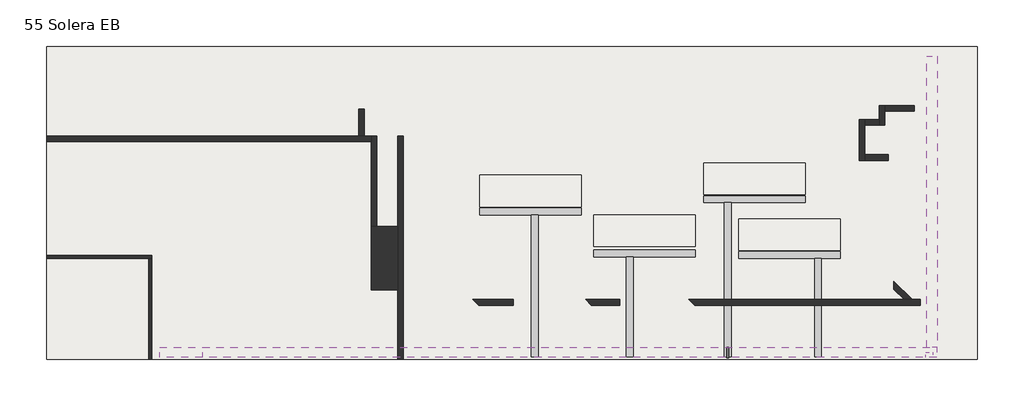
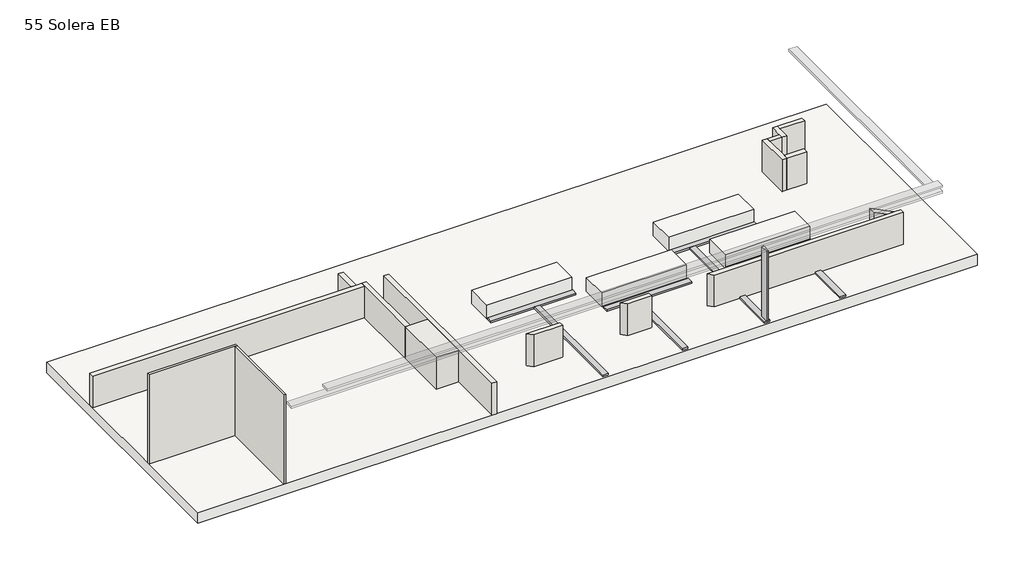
# One storey: 16 walls, 13 cable carrier segments, 5 slabs.
"""IFC4 building model written with IfcOpenShell, lengths in millimetres."""

from ifc_helpers import new_model, si_unit, frame, origin, place, context, project, spatial, polyline, outline, extrude, faceted_brep, element, save

model = new_model("IFC4")

# Units and contexts
model_context = context("Model", 3, world=origin())
ifc_project = project(units=[si_unit("LENGTHUNIT", "METRE", prefix="MILLI")], contexts=[model_context])

# Site, building, storey
site = spatial("IfcSite", under=ifc_project)
building = spatial("IfcBuilding", under=site)
storey = spatial("IfcBuildingStorey", under=building, Name="55 Solera EB", Elevation=-6800.0)

# Cable carrier segments
placement = place(None, origin())
element("IfcCableCarrierSegment", 1, ObjectType="Bandeja de cables de canal", at=placement, inside=storey, context=model_context, shape_type="SweptSolid", body=[
    extrude(outline(polyline([(-13595.4068586, 1343.4120119), (-13595.4068586, 1793.4120119), (20884.5931414, 1793.4120119), (20884.5931414, 1343.4120119), (-13595.4068586, 1343.4120119)])), frame((0.0, 0.0, -2781.7777346), z_axis=(0.0, 0.0, 1.0), x_axis=(1.0, 0.0, 0.0)), (0.0, 0.0, 1.0), 100.0),
])
element("IfcCableCarrierSegment", 2, ObjectType="Bandeja de cables de canal", at=placement, inside=storey, context=model_context, shape_type="SweptSolid", body=[
    extrude(outline(polyline([(-11695.4068586, 1343.4120119), (-11695.4068586, 1793.4120119), (20884.5931414, 1793.4120119), (20884.5931414, 1343.4120119), (-11695.4068586, 1343.4120119)])), frame((0.0, 0.0, -2461.7777346), z_axis=(0.0, 0.0, 1.0), x_axis=(1.0, 0.0, 0.0)), (0.0, 0.0, 1.0), 100.0),
])
element("IfcCableCarrierSegment", 3, ObjectType="Bandeja de cables de canal", at=placement, inside=storey, context=model_context, shape_type="SweptSolid", body=[
    extrude(outline(polyline([(20439.485393, 1793.4120119), (20439.485393, 14722.598714), (20889.485393, 14722.598714), (20889.485393, 1793.4120119), (20439.485393, 1793.4120119)])), frame((0.0, 0.0, -2786.8), z_axis=(0.0, 0.0, 1.0), x_axis=(1.0, 0.0, 0.0)), (0.0, 0.0, 1.0), 100.0),
])
element("IfcCableCarrierSegment", 4, ObjectType="Bandeja de cables de canal", at=placement, inside=storey, context=model_context, shape_type="SweptSolid", body=[
    extrude(outline(polyline([(10164.6588804, 6117.8029415), (10164.6588804, 5817.8029415), (5664.6588804, 5817.8029415), (5664.6588804, 6117.8029415), (10164.6588804, 6117.8029415)])), frame((0.0, 0.0, -6800.0), z_axis=(0.0, 0.0, 1.0), x_axis=(1.0, 0.0, 0.0)), (0.0, 0.0, 1.0), 100.0),
])
element("IfcCableCarrierSegment", 5, ObjectType="Bandeja de cables de canal", at=placement, inside=storey, context=model_context, shape_type="SweptSolid", body=[
    extrude(outline(polyline([(20694.4885605, 1363.4706059), (20394.4885605, 1363.4706059), (20394.4885605, 1568.4120119), (20694.4885605, 1568.4120119), (20694.4885605, 1363.4706059)])), frame((0.0, 0.0, -2786.8), z_axis=(0.0, 0.0, 1.0), x_axis=(1.0, 0.0, 0.0)), (0.0, 0.0, 1.0), 100.0),
])
element("IfcCableCarrierSegment", 6, ObjectType="Bandeja de cables de canal", at=placement, inside=storey, context=model_context, shape_type="SweptSolid", body=[
    extrude(outline(polyline([(12096.4155765, 5757.8029415), (12096.4155765, 6057.8029415), (16596.4155765, 6057.8029415), (16596.4155765, 5757.8029415), (12096.4155765, 5757.8029415)])), frame((0.0, 0.0, -6800.0), z_axis=(0.0, 0.0, 1.0), x_axis=(1.0, 0.0, 0.0)), (0.0, 0.0, 1.0), 100.0),
])
element("IfcCableCarrierSegment", 7, ObjectType="Bandeja de cables de canal", at=placement, inside=storey, context=model_context, shape_type="SweptSolid", body=[
    extrude(outline(polyline([(10535.5293551, 8222.9492922), (10535.5293551, 8522.9492922), (15035.5293551, 8522.9492922), (15035.5293551, 8222.9492922), (10535.5293551, 8222.9492922)])), frame((0.0, 0.0, -6800.0), z_axis=(0.0, 0.0, 1.0), x_axis=(1.0, 0.0, 0.0)), (0.0, 0.0, 1.0), 100.0),
])
element("IfcCableCarrierSegment", 8, ObjectType="Bandeja de cables de canal", at=placement, inside=storey, context=model_context, shape_type="SweptSolid", body=[
    extrude(outline(polyline([(600.9527436, 7682.5946862), (600.9527436, 7982.5946862), (5100.9527436, 7982.5946862), (5100.9527436, 7682.5946862), (600.9527436, 7682.5946862)])), frame((0.0, 0.0, -6800.0), z_axis=(0.0, 0.0, 1.0), x_axis=(1.0, 0.0, 0.0)), (0.0, 0.0, 1.0), 100.0),
])
element("IfcCableCarrierSegment", 9, ObjectType="Bandeja de cables de canal", at=placement, inside=storey, context=model_context, shape_type="SweptSolid", body=[
    extrude(outline(polyline([(3188.1043539, 7682.5946862), (3188.1043539, 1382.5946862), (2888.1043539, 1382.5946862), (2888.1043539, 7682.5946862), (3188.1043539, 7682.5946862)])), frame((0.0, 0.0, -6800.0), z_axis=(0.0, 0.0, 1.0), x_axis=(1.0, 0.0, 0.0)), (0.0, 0.0, 1.0), 100.0),
])
element("IfcCableCarrierSegment", 10, ObjectType="Bandeja de cables de canal", at=placement, inside=storey, context=model_context, shape_type="SweptSolid", body=[
    extrude(outline(polyline([(7400.1652336, 5817.8029415), (7400.1652336, 1382.5946862), (7100.1652336, 1382.5946862), (7100.1652336, 5817.8029415), (7400.1652336, 5817.8029415)])), frame((0.0, 0.0, -6800.0), z_axis=(0.0, 0.0, 1.0), x_axis=(1.0, 0.0, 0.0)), (0.0, 0.0, 1.0), 100.0),
])
element("IfcCableCarrierSegment", 11, ObjectType="Bandeja de cables de canal", at=placement, inside=storey, context=model_context, shape_type="SweptSolid", body=[
    extrude(outline(polyline([(15755.9833031, 5757.8029415), (15755.9833031, 1382.5946862), (15455.9833031, 1382.5946862), (15455.9833031, 5757.8029415), (15755.9833031, 5757.8029415)])), frame((0.0, 0.0, -6800.0), z_axis=(0.0, 0.0, 1.0), x_axis=(1.0, 0.0, 0.0)), (0.0, 0.0, 1.0), 100.0),
])
element("IfcCableCarrierSegment", 12, ObjectType="Bandeja de cables de canal", at=placement, inside=storey, context=model_context, shape_type="SweptSolid", body=[
    extrude(outline(polyline([(11748.8334932, 8222.9492922), (11748.8334932, 1382.5946862), (11448.8334932, 1382.5946862), (11448.8334932, 8222.9492922), (11748.8334932, 8222.9492922)])), frame((0.0, 0.0, -6800.0), z_axis=(0.0, 0.0, 1.0), x_axis=(1.0, 0.0, 0.0)), (0.0, 0.0, 1.0), 100.0),
])
element("IfcCableCarrierSegment", 13, ObjectType="Bandeja de cables de canal", at=placement, inside=storey, context=model_context, shape_type="Brep", body=[
    faceted_brep([(11647.214179, 1343.0546627, -6700.0), (11648.5307193, 1343.0546627, -2781.7777346), (11548.5333533, 1343.7812393, -2781.7777346), (11547.2168129, 1343.7812393, -6700.0), (11551.8029483, 1793.7693611, -2781.7777346), (11550.4864079, 1793.7693611, -6700.0), (11651.8003143, 1793.0427845, -2781.7777346), (11650.4837739, 1793.0427845, -6700.0)], [[[0, 1, 2, 3]], [[3, 2, 4, 5]], [[5, 4, 6, 7]], [[7, 6, 1, 0]], [[0, 3, 5, 7]], [[1, 6, 4, 2]]]),
])

# Slabs
element("IfcSlab", 14, ObjectType="Hormigón in situ 600mm", at=placement, inside=storey, context=model_context, shape_type="SweptSolid", body=[
    extrude(outline(polyline([(22679.8913947, 15161.9564867), (22679.8913947, 1273.4120119), (-18618.7193999, 1273.4120119), (-18618.7193999, 15161.9564867), (22679.8913947, 15161.9564867)])), frame((0.0, 0.0, -7400.0), z_axis=(0.0, 0.0, 1.0), x_axis=(1.0, 0.0, 0.0)), (0.0, 0.0, 1.0), 600.0),
])
element("IfcSlab", 15, ObjectType="Genérico 770 mm", at=placement, inside=storey, context=model_context, shape_type="SweptSolid", body=[
    extrude(outline(polyline([(5658.7740434, 7685.2316774), (10158.7740434, 7685.2316774), (10158.7740434, 6285.2316774), (5658.7740434, 6285.2316774), (5658.7740434, 7685.2316774)])), frame((0.0, 0.0, -6800.0), z_axis=(0.0, 0.0, 1.0), x_axis=(1.0, 0.0, 0.0)), (0.0, 0.0, 1.0), 770.0),
])
element("IfcSlab", 16, ObjectType="Genérico 770 mm", at=placement, inside=storey, context=model_context, shape_type="SweptSolid", body=[
    extrude(outline(polyline([(10535.5293551, 9982.9492922), (15035.5293551, 9982.9492922), (15035.5293551, 8582.9492922), (10535.5293551, 8582.9492922), (10535.5293551, 9982.9492922)])), frame((0.0, 0.0, -6800.0), z_axis=(0.0, 0.0, 1.0), x_axis=(1.0, 0.0, 0.0)), (0.0, 0.0, 1.0), 770.0),
])
element("IfcSlab", 17, ObjectType="Genérico 770 mm", at=placement, inside=storey, context=model_context, shape_type="SweptSolid", body=[
    extrude(outline(polyline([(12092.5892733, 7498.3279139), (16592.5892733, 7498.3279139), (16592.5892733, 6098.3279139), (12092.5892733, 6098.3279139), (12092.5892733, 7498.3279139)])), frame((0.0, 0.0, -6800.0), z_axis=(0.0, 0.0, 1.0), x_axis=(1.0, 0.0, 0.0)), (0.0, 0.0, 1.0), 770.0),
])
element("IfcSlab", 18, ObjectType="Genérico 770 mm", at=placement, inside=storey, context=model_context, shape_type="SweptSolid", body=[
    extrude(outline(polyline([(600.9527436, 9442.5946862), (5100.9527436, 9442.5946862), (5100.9527436, 8042.5946862), (600.9527436, 8042.5946862), (600.9527436, 9442.5946862)])), frame((0.0, 0.0, -6800.0), z_axis=(0.0, 0.0, 1.0), x_axis=(1.0, 0.0, 0.0)), (0.0, 0.0, 1.0), 770.0),
])

# Walls
element("IfcWall", 19, ObjectType="Retención - Hormigón 250 mm", at=placement, inside=storey, context=model_context, shape_type="SweptSolid", body=[
    extrude(outline(polyline([(17674.8161663, 10355.3134383), (18724.8161663, 10355.3134383), (18724.8161663, 10105.3134383), (17674.8161663, 10105.3134383), (17674.8161663, 10355.3134383)])), frame((0.0, 0.0, -6800.0), z_axis=(0.0, 0.0, 1.0), x_axis=(1.0, 0.0, 0.0)), (0.0, 0.0, 1.0), 1786.6850668),
])
element("IfcWall", 20, ObjectType="Retención - Hormigón 250 mm", at=placement, inside=storey, context=model_context, shape_type="Brep", body=[
    faceted_brep([(17674.8161663, 10105.3134383, -6800.0), (17674.8161663, 10355.3134383, -6800.0), (17674.8161663, 11665.3134383, -6800.0), (17674.8161663, 11915.3134383, -6800.0), (17674.8161663, 11915.3134383, -5013.3149332), (17674.8161663, 11665.3134383, -5013.3149332), (17674.8161663, 10355.3134383, -5013.3149332), (17674.8161663, 10105.3134383, -5013.3149332), (17424.8161663, 10105.3134383, -6800.0), (17424.8161663, 10105.3134383, -5013.3149332), (17424.8161663, 11915.3134383, -5013.3149332), (17424.8161663, 11915.3134383, -6800.0)], [[[0, 1, 2, 3, 4, 5, 6, 7]], [[8, 9, 10, 11]], [[3, 2, 1, 0, 8, 11]], [[7, 6, 5, 4, 10, 9]], [[0, 7, 9, 8]], [[4, 3, 11, 10]]]),
])
element("IfcWall", 21, ObjectType="Retención - Hormigón 250 mm", at=placement, inside=storey, context=model_context, shape_type="SweptSolid", body=[
    extrude(outline(polyline([(18324.8161663, 11665.3134383), (17674.8161663, 11665.3134383), (17674.8161663, 11915.3134383), (18324.8161663, 11915.3134383), (18324.8161663, 11665.3134383)])), frame((0.0, 0.0, -6800.0), z_axis=(0.0, 0.0, 1.0), x_axis=(1.0, 0.0, 0.0)), (0.0, 0.0, 1.0), 1786.6850668),
])
element("IfcWall", 22, ObjectType="Retención - Hormigón 250 mm", at=placement, inside=storey, context=model_context, shape_type="Brep", body=[
    faceted_brep([(18574.8161663, 11665.3134383, -6800.0), (18574.8161663, 12285.3134383, -6800.0), (18574.8161663, 12535.3134383, -6800.0), (18574.8161663, 12535.3134383, -5013.3149332), (18574.8161663, 12285.3134383, -5013.3149332), (18574.8161663, 11665.3134383, -5013.3149332), (18324.8161663, 11665.3134383, -6800.0), (18324.8161663, 11665.3134383, -5013.3149332), (18324.8161663, 11915.3134383, -5013.3149332), (18324.8161663, 12535.3134383, -5013.3149332), (18324.8161663, 12535.3134383, -6800.0), (18324.8161663, 11915.3134383, -6800.0)], [[[0, 1, 2, 3, 4, 5]], [[6, 7, 8, 9, 10, 11]], [[2, 1, 0, 6, 11, 10]], [[5, 4, 3, 9, 8, 7]], [[0, 5, 7, 6]], [[3, 2, 10, 9]]]),
])
element("IfcWall", 23, ObjectType="Retención - Hormigón 250 mm", at=placement, inside=storey, context=model_context, shape_type="SweptSolid", body=[
    extrude(outline(polyline([(19880.4856046, 12285.3134383), (18574.8161663, 12285.3134383), (18574.8161663, 12535.3134383), (19880.4856046, 12535.3134383), (19880.4856046, 12285.3134383)])), frame((0.0, 0.0, -6800.0), z_axis=(0.0, 0.0, 1.0), x_axis=(1.0, 0.0, 0.0)), (0.0, 0.0, 1.0), 1786.6850668),
])
element("IfcWall", 24, ObjectType="Retención - Hormigón 250 mm", at=placement, inside=storey, context=model_context, shape_type="Brep", body=[
    faceted_brep([(10131.4128213, 3668.4120119, -6800.0), (20135.7724502, 3668.4120119, -6800.0), (20135.7724502, 3668.4120119, -5013.3149332), (10131.4128213, 3668.4120119, -5013.3149332), (9881.4128213, 3918.4120119, -6800.0), (9881.4128213, 3918.4120119, -5013.3149332), (19431.4128213, 3918.4120119, -5013.3149332), (19784.9662119, 3918.4120119, -5013.3149332), (20135.7724502, 3918.4120119, -5013.3149332), (20135.7724502, 3918.4120119, -6800.0), (19784.9662119, 3918.4120119, -6800.0), (19431.4128213, 3918.4120119, -6800.0)], [[[0, 1, 2, 3]], [[4, 5, 6, 7, 8, 9, 10, 11]], [[1, 0, 4, 11, 10, 9]], [[2, 1, 9, 8]], [[3, 2, 8, 7, 6, 5]], [[0, 3, 5, 4]]]),
])
element("IfcWall", 25, ObjectType="Retención - Hormigón 250 mm", at=placement, inside=storey, context=model_context, shape_type="SweptSolid", body=[
    extrude(outline(polyline([(-4221.9132931, 7173.4120119), (-4221.9132931, 11186.1018025), (-3971.9132931, 11186.1018025), (-3971.9132931, 7173.4120119), (-4221.9132931, 7173.4120119)])), frame((0.0, 0.0, -6800.0), z_axis=(0.0, 0.0, 1.0), x_axis=(1.0, 0.0, 0.0)), (0.0, 0.0, 1.0), 1786.6850668),
])
element("IfcWall", 26, ObjectType="Retención - Hormigón 250 mm", at=placement, inside=storey, context=model_context, shape_type="SweptSolid", body=[
    extrude(outline(polyline([(5294.9662119, 3918.4120119), (6804.8161663, 3918.4120119), (6804.8161663, 3668.4120119), (5544.9662119, 3668.4120119), (5294.9662119, 3918.4120119)])), frame((0.0, 0.0, -6800.0), z_axis=(0.0, 0.0, 1.0), x_axis=(1.0, 0.0, 0.0)), (0.0, 0.0, 1.0), 1786.6850668),
])
element("IfcWall", 27, ObjectType="Retención - Hormigón 250 mm", at=placement, inside=storey, context=model_context, shape_type="SweptSolid", body=[
    extrude(outline(polyline([(294.9662119, 3918.4120119), (2079.8161663, 3918.4120119), (2079.8161663, 3668.4120119), (544.9662119, 3668.4120119), (294.9662119, 3918.4120119)])), frame((0.0, 0.0, -6800.0), z_axis=(0.0, 0.0, 1.0), x_axis=(1.0, 0.0, 0.0)), (0.0, 0.0, 1.0), 1786.6850668),
])
element("IfcWall", 28, ObjectType="Retención - Hormigón 250 mm", at=placement, inside=storey, context=model_context, shape_type="SweptSolid", body=[
    extrude(outline(polyline([(-4765.181854, 11185.3134383), (-4765.181854, 12380.3134383), (-4515.181854, 12380.3134383), (-4515.181854, 11185.3134383), (-4765.181854, 11185.3134383)])), frame((0.0, 0.0, -6800.0), z_axis=(0.0, 0.0, 1.0), x_axis=(1.0, 0.0, 0.0)), (0.0, 0.0, 1.0), 1786.6850668),
])
element("IfcWall", 29, ObjectType="Retención - Hormigón 250 mm", at=placement, inside=storey, context=model_context, shape_type="Brep", body=[
    faceted_brep([(-4221.9132931, 11185.3134383, -6800.0), (-4515.181854, 11185.3134383, -6800.0), (-4765.181854, 11185.3134383, -6800.0), (-18613.8749865, 11185.3134383, -6800.0), (-18613.8749865, 11185.3134383, -5013.3149332), (-4765.181854, 11185.3134383, -5013.3149332), (-4515.181854, 11185.3134383, -5013.3149332), (-4221.9132931, 11185.3134383, -5013.3149332), (-4221.9132931, 10935.3134383, -6800.0), (-4221.9132931, 10935.3134383, -5013.3149332), (-18613.8749865, 10935.3134383, -5013.3149332), (-18613.8749865, 10935.3134383, -6800.0)], [[[0, 1, 2, 3, 4, 5, 6, 7]], [[8, 9, 10, 11]], [[3, 2, 1, 0, 8, 11]], [[4, 3, 11, 10]], [[7, 6, 5, 4, 10, 9]], [[0, 7, 9, 8]]]),
])
element("IfcWall", 30, ObjectType="Retención - Hormigón 250 mm", at=placement, inside=storey, context=model_context, shape_type="Brep", body=[
    faceted_brep([(-3038.6654634, 11185.3134383, -6800.0), (-3038.6654634, 7173.4120119, -6800.0), (-3038.6654634, 4343.4120119, -6800.0), (-3038.6654634, 1273.4120119, -6800.0), (-3038.6654634, 1273.4120119, -5013.3149332), (-3038.6654634, 4343.4120119, -5013.3149332), (-3038.6654634, 7173.4120119, -5013.3149332), (-3038.6654634, 11185.3134383, -5013.3149332), (-2788.6654634, 11185.3134383, -6800.0), (-2788.6654634, 11185.3134383, -5013.3149332), (-2788.6654634, 1273.4120119, -5013.3149332), (-2788.6654634, 1273.4120119, -6800.0)], [[[0, 1, 2, 3, 4, 5, 6, 7]], [[8, 9, 10, 11]], [[3, 2, 1, 0, 8, 11]], [[7, 6, 5, 4, 10, 9]], [[4, 3, 11, 10]], [[0, 7, 9, 8]]]),
])
element("IfcWall", 31, ObjectType="Retención - Hormigón 250 mm", at=placement, inside=storey, context=model_context, shape_type="SweptSolid", body=[
    extrude(outline(polyline([(18974.8161663, 4728.5620575), (19784.9662119, 3918.4120119), (19431.4128213, 3918.4120119), (18974.8161663, 4375.0086669), (18974.8161663, 4728.5620575)])), frame((0.0, 0.0, -6800.0), z_axis=(0.0, 0.0, 1.0), x_axis=(1.0, 0.0, 0.0)), (0.0, 0.0, 1.0), 1786.6850668),
])
element("IfcWall", 32, ObjectType="Retención - Hormigón 2830 mm 2", at=placement, inside=storey, context=model_context, shape_type="SweptSolid", body=[
    extrude(outline(polyline([(-3038.6654634, 4343.4120119), (-4221.9132931, 4343.4120119), (-4221.9132931, 7173.4120119), (-3038.6654634, 7173.4120119), (-3038.6654634, 4343.4120119)])), frame((0.0, 0.0, -6800.0), z_axis=(0.0, 0.0, 1.0), x_axis=(1.0, 0.0, 0.0)), (0.0, 0.0, 1.0), 1786.6850668),
])
element("IfcWall", 33, ObjectType="Interior - bloques 100 mm", at=placement, inside=storey, context=model_context, shape_type="Brep", body=[
    faceted_brep([(-18620.5617954, 5749.2105386, -6800.0), (-14082.5617954, 5749.2105386, -6800.0), (-13958.5617954, 5749.2105386, -6800.0), (-13958.5617954, 5749.2105386, -1800.0), (-14082.5617954, 5749.2105386, -1800.0), (-18620.5617954, 5749.2105386, -1800.0), (-18620.5617954, 5873.2105386, -6800.0), (-18620.5617954, 5873.2105386, -1800.0), (-13958.5617954, 5873.2105386, -1800.0), (-13958.5617954, 5873.2105386, -6800.0)], [[[0, 1, 2, 3, 4, 5]], [[6, 7, 8, 9]], [[2, 1, 0, 6, 9]], [[5, 4, 3, 8, 7]], [[0, 5, 7, 6]], [[3, 2, 9, 8]]]),
])
element("IfcWall", 34, ObjectType="Interior - bloques 100 mm", at=placement, inside=storey, context=model_context, shape_type="SweptSolid", body=[
    extrude(outline(polyline([(-14082.5617954, 1273.4120119), (-14082.5617954, 5749.2105386), (-13958.5617954, 5749.2105386), (-13958.5617954, 1273.4120119), (-14082.5617954, 1273.4120119)])), frame((0.0, 0.0, -6800.0), z_axis=(0.0, 0.0, 1.0), x_axis=(1.0, 0.0, 0.0)), (0.0, 0.0, 1.0), 5000.0),
])

save(model, "model.ifc")
